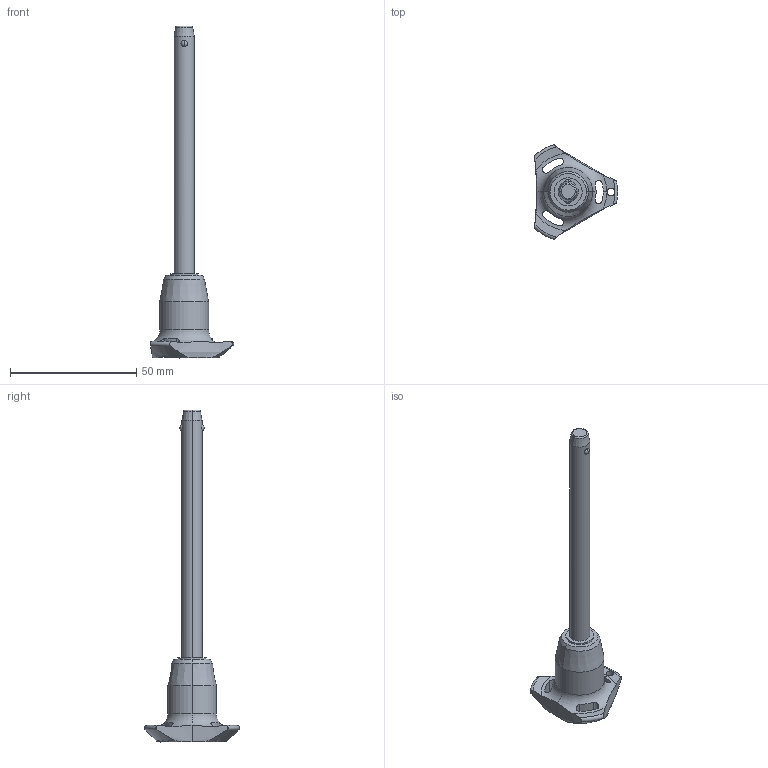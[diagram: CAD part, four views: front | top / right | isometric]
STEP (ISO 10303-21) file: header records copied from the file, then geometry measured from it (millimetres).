
FILE_DESCRIPTION (( 'STEP AP203' ), '1' );
FILE_NAME ('QR1704.M08-090-S.step', '2025-11-12T09:17:20', ( '' ), ( '' ), 'SwSTEP 2.0', 'SolidWorks 2019', '' );
FILE_SCHEMA (( 'CONFIG_CONTROL_DESIGN' ));
Length unit declared in the file: millimetre
Products named in the file (1): QR1704.M08-090-S
Bounding box: 33 x 37.51 x 131.5 mm (x, y, z)
Volume: 15174.1 mm3; surface area: 6316.5 mm2
Topology: 1 solids, 1 shells, 65 faces, 174 edges, 109 vertices
Faces by surface type: cylinder 30, cone 14, torus 11, sphere 6, plane 4
Entity records: 2746 total; most frequent: CARTESIAN_POINT 1073, ORIENTED_EDGE 348, DIRECTION 331, EDGE_CURVE 174, AXIS2_PLACEMENT_3D 147, VERTEX_POINT 109, CIRCLE 81, EDGE_LOOP 71
